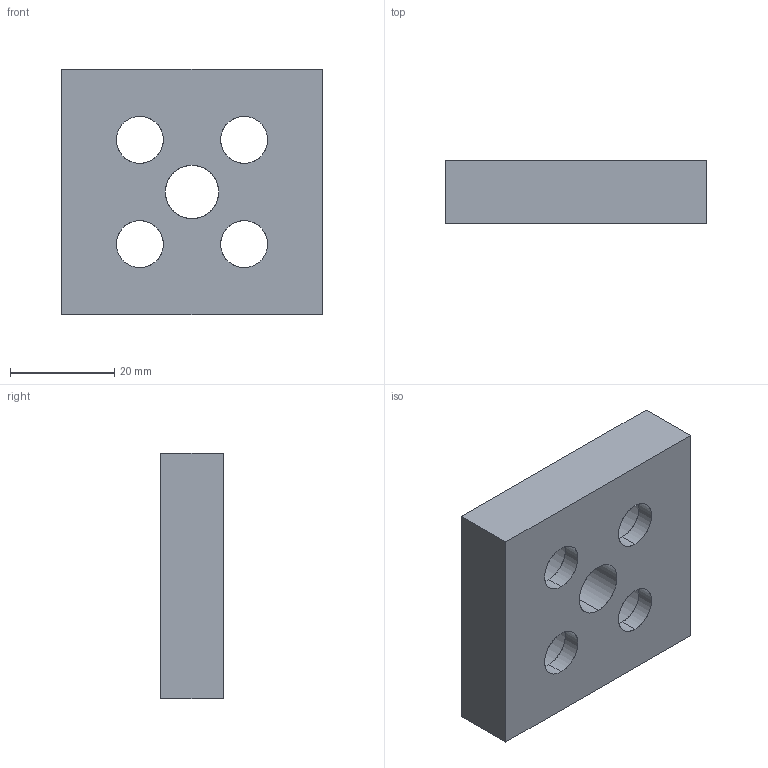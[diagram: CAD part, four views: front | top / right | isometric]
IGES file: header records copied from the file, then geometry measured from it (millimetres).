
Start section: SolidWorks IGES file using analytic representation for surfaces
Global section: file name: C:\Documents and Settings\Administrator\デスクトップ\指定保存後3回目\SolidWorks\SF\SF30\Parts\SFK-68A.IGS; native system: SolidWorks 2006 by SolidWorks Corporation; preprocessor: SolidWorks 2006 by SolidWorks Corporation; author: Administrator; date: 061213.110739; units: millimetre
Bounding box: 50 x 12 x 47 mm (x, y, z)
Surface area: 8637.7 mm2 (no closed solid volume)
Topology: 0 solids, 0 shells, 28 faces, 738 edges, 804 vertices
Faces by surface type: revolution 18, bspline 10
